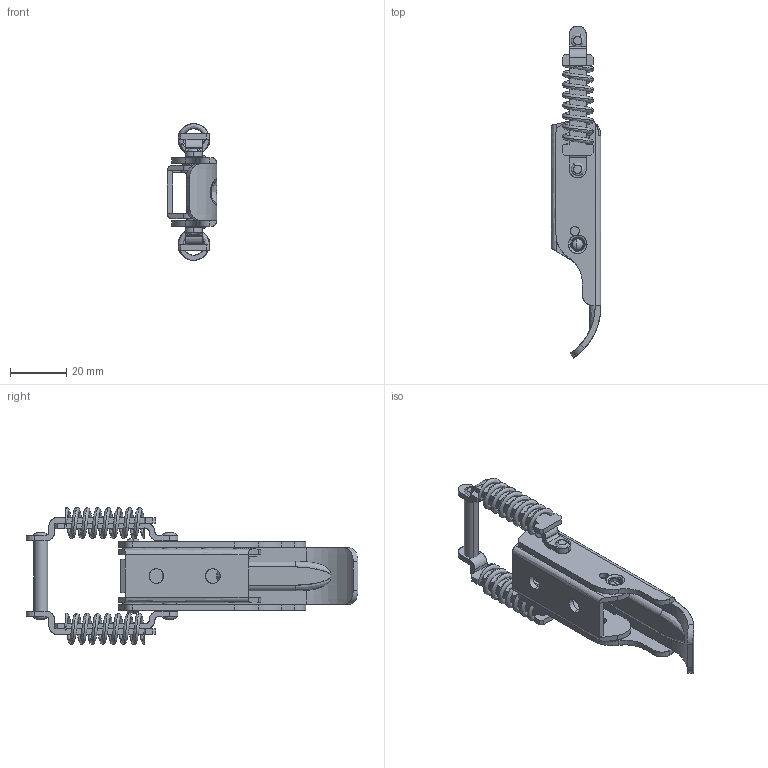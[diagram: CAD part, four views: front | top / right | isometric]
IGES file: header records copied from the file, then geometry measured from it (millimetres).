
Start section: SolidWorks IGES FILE using analytic representation for surfaces
Global section: file name: C:\Documents and Settings\lecoutey\Bureau\GP 29\GP 29.IGS; native system: SolidWorks 2004 by SolidWorks Corporation; preprocessor: Version 5.3; author: lecoutey; date: 050329.141132; units: millimetre
Bounding box: 17.6 x 117.66 x 48.4 mm (x, y, z)
Surface area: 19416.7 mm2 (no closed solid volume)
Topology: 0 solids, 0 shells, 311 faces, 4936 edges, 4935 vertices
Faces by surface type: bspline 183, revolution 128
